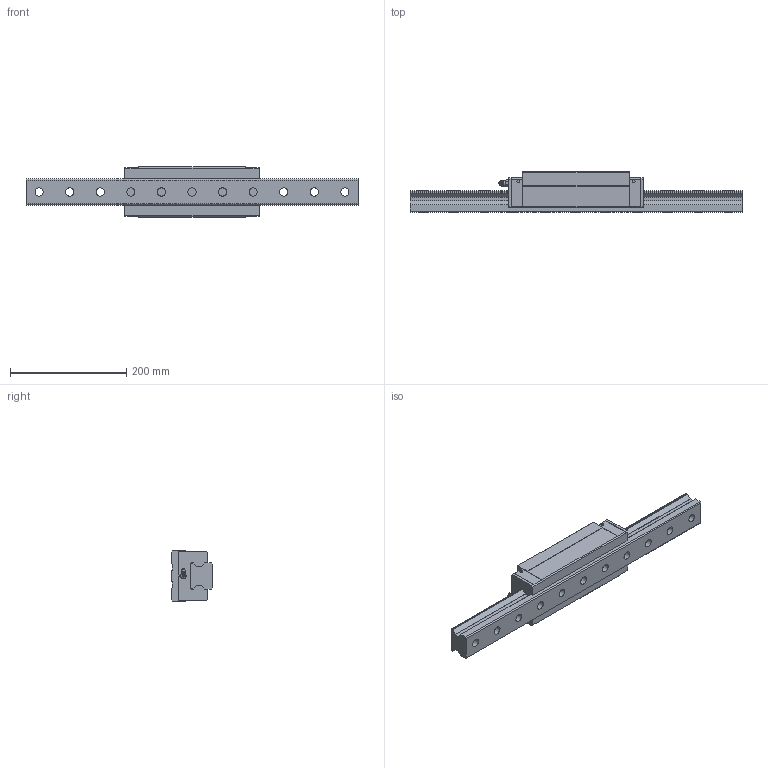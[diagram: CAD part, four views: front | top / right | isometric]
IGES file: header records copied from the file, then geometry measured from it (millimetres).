
Start section: Data from Parasolid IGES Translator 26.0.171, Copyright(c) 2006 Siemens PLM Software. All Rights Reserved.
Global section: file name: SRG45SLR1SS-570LH_G22-5_0_B-PT18_169-25_0_0_0_1.igs; native system: By Siemens PLM Incorporated; preprocessor: XPlus GENERIC/IGES 26.0.171; author: Noname; organization: Noname; date: 20240523.102323; units: millimetre
Bounding box: 570 x 70 x 86 mm (x, y, z)
Surface area: 216832.6 mm2 (no closed solid volume)
Topology: 0 solids, 0 shells, 216 faces, 1104 edges, 1002 vertices
Faces by surface type: extrusion 130, revolution 86
